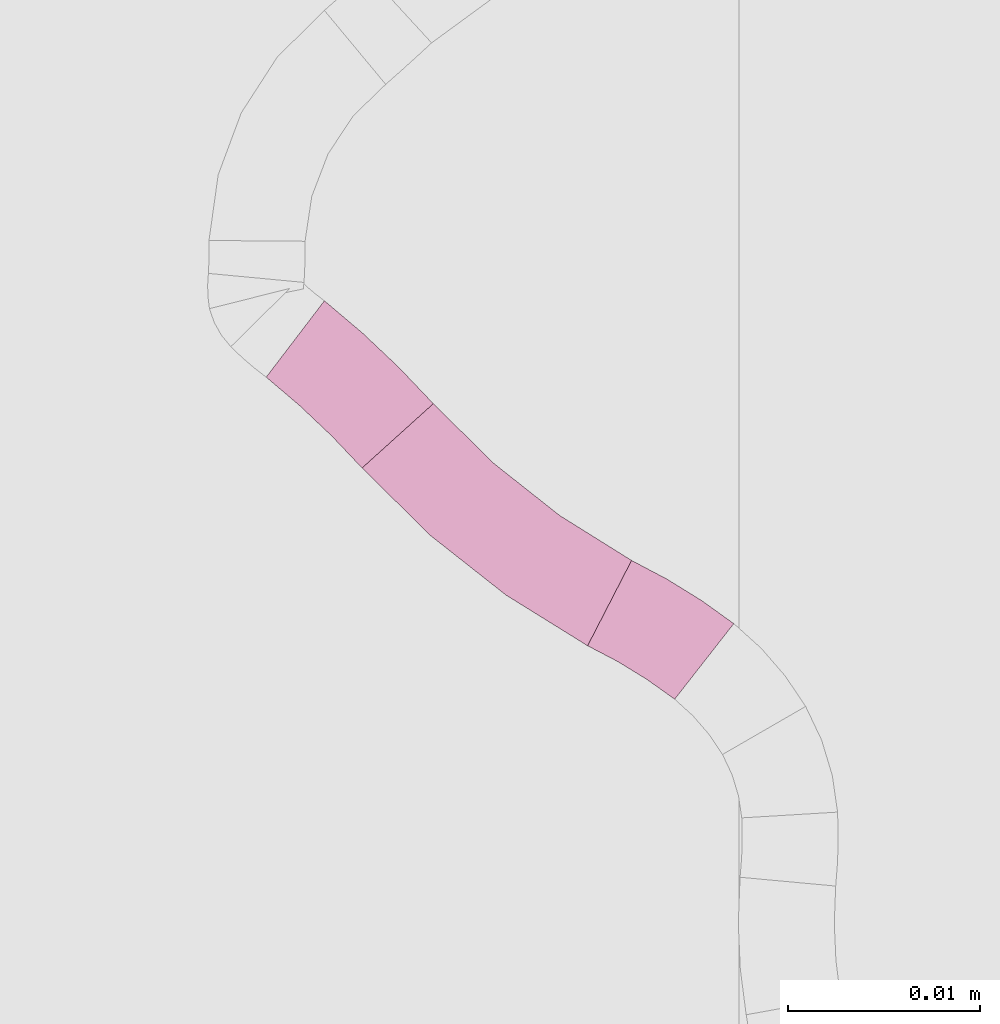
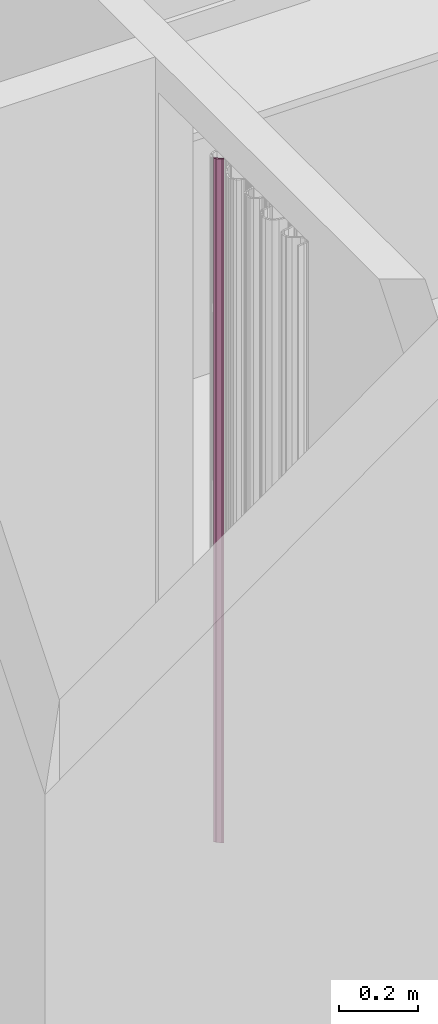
# One storey, part 337 of 418: 3 furnishings.
"""IFC2X3 building model written with IfcOpenShell, lengths in millimetres."""

from ifc_helpers import new_model, entity, si_unit, converted_unit, derived_unit, money_unit, point, direction, frame, frame_2d, origin_with_axes, place, context, subcontext, project, spatial, polyline, circle_curve, parameter, trimmed, segment, composite_curve, outline, extrude, material, type_object, element, save


model = new_model("IFC2X3")

# Units and contexts
model_context = context("Model", 3, precision=0.01, world=origin_with_axes(), true_north=direction((0.0, 1.0)))
body_context = subcontext(model_context, "Body", "Model", "MODEL_VIEW")
ifc_project = project(units=[si_unit("LENGTHUNIT", "METRE", prefix="MILLI"), si_unit("AREAUNIT", "SQUARE_METRE"), si_unit("VOLUMEUNIT", "CUBIC_METRE"), converted_unit("PLANEANGLEUNIT", "DEGREE", entity("IfcPlaneAngleMeasure", 0.0174532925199), si_unit("PLANEANGLEUNIT", "RADIAN"), dimensions=[0, 0, 0, 0, 0, 0, 0]), si_unit("SOLIDANGLEUNIT", "STERADIAN"), money_unit("EUR"), converted_unit("TIMEUNIT", "Year", entity("IfcTimeMeasure", 31556926.0), si_unit("TIMEUNIT", "SECOND"), dimensions=[0, 0, 1, 0, 0, 0, 0]), si_unit("MASSUNIT", "GRAM", prefix="KILO"), si_unit("THERMODYNAMICTEMPERATUREUNIT", "DEGREE_CELSIUS"), si_unit("LUMINOUSINTENSITYUNIT", "LUMEN"), si_unit("ENERGYUNIT", "JOULE", prefix="MEGA"), derived_unit("THERMALCONDUCTANCEUNIT", [(si_unit("POWERUNIT", "WATT"), 1), (si_unit("LENGTHUNIT", "METRE"), -1), (si_unit("THERMODYNAMICTEMPERATUREUNIT", "KELVIN"), -1)]), derived_unit("SPECIFICHEATCAPACITYUNIT", [(si_unit("ENERGYUNIT", "JOULE"), 1), (si_unit("MASSUNIT", "GRAM", prefix="KILO"), -1), (si_unit("THERMODYNAMICTEMPERATUREUNIT", "KELVIN"), -1)]), derived_unit("MASSDENSITYUNIT", [(si_unit("MASSUNIT", "GRAM", prefix="KILO"), 1), (si_unit("VOLUMEUNIT", "CUBIC_METRE"), -1)])], contexts=[model_context])

# Site, building, storey
site_placement = place(None, origin_with_axes())
site = spatial("IfcSite", under=ifc_project, at=site_placement, Name="Paldiski mnt 245/1, Tallinn, Harjumaa", CompositionType="COMPLEX")
building_placement = place(site_placement, origin_with_axes())
building = spatial("IfcBuilding", under=site, at=building_placement, Name="RKAS Hoone üldnimetus (kasutust iseloomustav) -> IFC Project Manager -> SOLIBRI", CompositionType="ELEMENT")
storey_placement = place(building_placement, origin_with_axes())
storey = spatial("IfcBuildingStorey", under=building, at=storey_placement, Name="Esimene korrus", CompositionType="ELEMENT", Elevation=0.0)

# Furnishings
ifc_material = material(Name="KON-00_GENEERILINE - KONSTRUKTSIOON")
furniture_type = type_object("IfcFurnitureType", Name="KON-00_GENEERILINE - KONSTRUKTSIOON 5", AssemblyPlace="NOTDEFINED")
furnishing_1_placement = place(storey_placement, frame((-44025.7436749, -1911.3077041, 0.0), z_axis=(0.0, 0.0, 1.0), x_axis=(-0.794212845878, 0.607639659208, 0.0)))
element("IfcFurnishingElement", 1, at=furnishing_1_placement, inside=storey, type_object=furniture_type, material=ifc_material, Name="SS-73", context=body_context, shape_type="SweptSolid", body=[
    extrude(outline(composite_curve([segment(trimmed(circle_curve(frame_2d((0.0, 25.9895354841), x_axis=(-0.00169326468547, -0.999998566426)), 30.9895354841), [point((-0.0524734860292, -4.99995557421)), parameter(0.0)], [point((6.17652834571, -4.37824031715)), parameter(11.5936371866)], True, "CARTESIAN"), True, "CONTINUOUS"), segment(polyline([(6.17652834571, -4.37824031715), (5.29433863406, 0.544969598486)]), True, "CONTINUOUS"), segment(trimmed(circle_curve(frame_2d((0.0, 25.9895354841), x_axis=(0.0, -1.0)), 25.9895354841), [point((5.29433863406, 0.544969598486)), parameter(11.7540174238)], [point((1.70530256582e-10, 0.0)), parameter(0.0)], False, "CARTESIAN"), True, "CONTINUOUS"), segment(polyline([(1.70530256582e-10, 0.0), (-0.0524734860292, -4.99995557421)]), True, "CONTINUOUS")], self_intersect=False)), origin_with_axes(), (0.0, 0.0, 1.0), 2100.0),
])
furnishing_2_placement = place(storey_placement, frame((-44042.0253851, -1899.26268002, 0.0), z_axis=(0.0, 0.0, 1.0), x_axis=(0.670807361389, -0.741631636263, 0.0)))
element("IfcFurnishingElement", 2, at=furnishing_2_placement, inside=storey, type_object=furniture_type, material=ifc_material, Name="SS-72", context=body_context, shape_type="SweptSolid", body=[
    extrude(outline(composite_curve([segment(trimmed(circle_curve(frame_2d((0.0, 44.7664520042), x_axis=(0.0, -1.0)), 44.7664520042), [point((0.0, 0.0)), parameter(0.0)], [point((14.7472235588, 2.49879744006)), parameter(19.2339266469)], True, "CARTESIAN"), True, "CONTINUOUS"), segment(polyline([(14.7472235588, 2.49879744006), (12.9865795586, 7.18029156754)]), True, "CONTINUOUS"), segment(trimmed(circle_curve(frame_2d((0.0, 44.7664520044), x_axis=(0.000138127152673, -0.99999999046)), 39.7664520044), [point((12.9865795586, 7.18029156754)), parameter(19.0528812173)], [point((0.00549282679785, 5.00000037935)), parameter(0.0)], False, "CARTESIAN"), True, "CONTINUOUS"), segment(polyline([(0.00549282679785, 5.00000037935), (0.0, 0.0)]), True, "CONTINUOUS")], self_intersect=False)), origin_with_axes(), (0.0, 0.0, 1.0), 2100.0),
])
furnishing_3_placement = place(storey_placement, frame((-44042.0253851, -1899.26268002, 0.0), z_axis=(0.0, 0.0, 1.0), x_axis=(-0.669077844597, 0.74319232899, 0.0)))
element("IfcFurnishingElement", 3, at=furnishing_3_placement, inside=storey, type_object=furniture_type, material=ifc_material, Name="SS-71", context=body_context, shape_type="SweptSolid", body=[
    extrude(outline(composite_curve([segment(trimmed(circle_curve(frame_2d((0.0, 43.3120450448), x_axis=(0.000127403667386, -0.999999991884)), 48.3120450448), [point((0.0061551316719, -4.99999960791)), parameter(0.0)], [point((7.7854392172, -4.368565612)), parameter(9.26629664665)], True, "CARTESIAN"), True, "CONTINUOUS"), segment(polyline([(7.7854392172, -4.368565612), (6.8583873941, 0.546454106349)]), True, "CONTINUOUS"), segment(trimmed(circle_curve(frame_2d((0.0, 43.3120450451), x_axis=(0.0, -1.0)), 43.3120450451), [point((6.8583873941, 0.546454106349)), parameter(9.11103688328)], [point((0.0, 0.0)), parameter(0.0)], False, "CARTESIAN"), True, "CONTINUOUS"), segment(polyline([(0.0, 0.0), (0.0061551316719, -4.99999960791)]), True, "CONTINUOUS")], self_intersect=False)), origin_with_axes(), (0.0, 0.0, 1.0), 2100.0),
])

save(model, "model.ifc")
